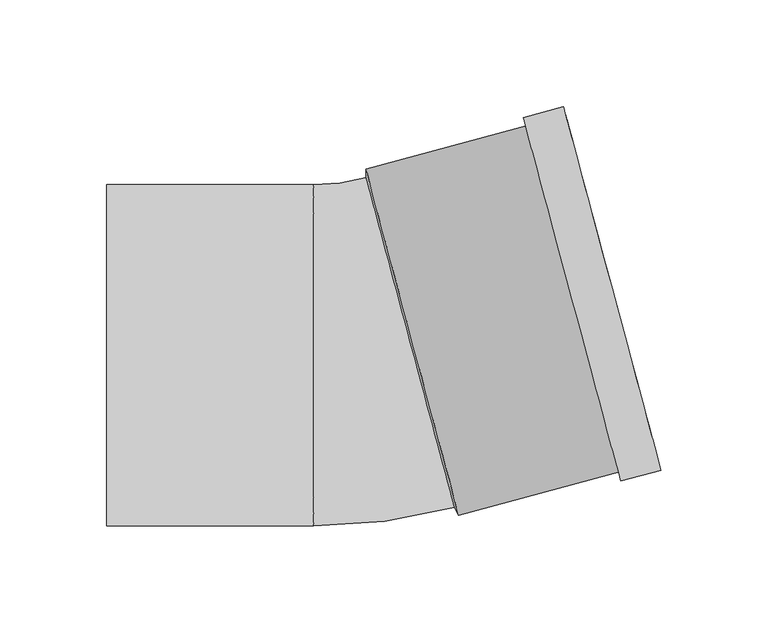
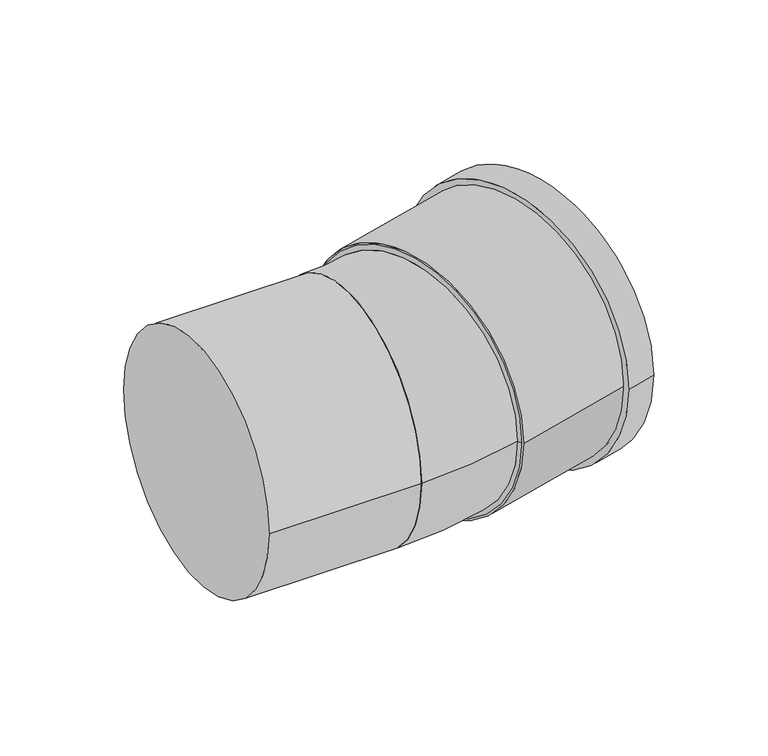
"""IFC4 building model written with IfcOpenShell, lengths in millimetres: pipe fitting geometry, Superdrain SKB Bend : Superdrain SKB Bend."""

from ifc_helpers import new_model, si_unit, point, frame, origin, origin_2d, place, context, project, spatial, polyline, circle_curve, ellipse_curve, trimmed, segment, composite_curve, outline, extrude, source, transform, mapped, element, save
from ifc_brep_helpers import plane_surface, revolved_surface, advanced_brep


def pipe_fitting_b6990175(model_context):
    return source(origin(), model_context, "Body", "SolidModel", [
        advanced_brep(
        [(42.9218176, -71.3212281, 0.0), (1.5107704, 83.2269041, 0.0), (-23.0, -80.0, 0.0), (-23.0, 80.0, 0.0)],
        [
            (0, 1, circle_curve(frame((22.216294, 5.952838, 0.0), z_axis=(0.965925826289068, 0.258819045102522, 0.0), x_axis=(-0.258819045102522, 0.965925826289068, 0.0)), 80.0)),
            (1, 0, circle_curve(frame((22.216294, 5.952838, 0.0), z_axis=(0.965925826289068, 0.258819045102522, 0.0), x_axis=(-0.258819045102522, 0.965925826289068, 0.0)), 80.0)),
            (2, 3, circle_curve(frame((-23.0, 0.0, 0.0), z_axis=(-1.0, 0.0, 0.0), x_axis=(0.0, 1.0, 0.0)), 80.0)),
            (3, 2, circle_curve(frame((-23.0, 0.0, 0.0), z_axis=(-1.0, 0.0, 0.0), x_axis=(0.0, 1.0, 0.0)), 80.0)),
            (3, 1, circle_curve(frame((-23.0, 174.7023446, 0.0), z_axis=(0.0, 0.0, 1.0), x_axis=(1.0, 0.0, 0.0)), 94.7023446)),
            (0, 2, circle_curve(frame((-23.0, 174.7023446, 0.0), z_axis=(0.0, 0.0, -1.0), x_axis=(1.0, 0.0, 0.0)), 254.7023446)),
        ],
        [
            plane_surface(frame((22.216294, 5.952838, 0.0), z_axis=(0.965925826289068, 0.258819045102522, 0.0), x_axis=(0.0, 0.0, -1.0))),
            plane_surface(frame((-23.0, 0.0, 0.0), z_axis=(-1.0, 0.0, 0.0), x_axis=(0.0, 0.0, -1.0))),
            revolved_surface(trimmed(ellipse_curve(frame((151.7023446, 174.7023446, 0.0), z_axis=(0.0, -1.0, 0.0), x_axis=(-1.0, 0.0, 0.0)), 80.0, 80.0), [point((71.7023446, 174.7023446, 0.0))], [point((231.7023446, 174.7023446, 0.0))], True, "CARTESIAN"), (-23.0, 174.7023446, 0.0), (0.0, 0.0, 1.0)),
            revolved_surface(trimmed(ellipse_curve(frame((151.7023446, 174.7023446, 0.0), z_axis=(0.0, -1.0, 0.0), x_axis=(-1.0, 0.0, 0.0)), 80.0, 80.0), [point((231.7023446, 174.7023446, 0.0))], [point((71.7023446, 174.7023446, 0.0))], True, "CARTESIAN"), (-23.0, 174.7023446, 0.0), (0.0, 0.0, 1.0)),
        ],
        [
            (0, [[1, 2]]),
            (1, [[3, 4]]),
            (2, [[-4, 5, -1, 6]]),
            (3, [[-3, -6, -2, -5]]),
        ],
    ),
        extrude(outline(composite_curve([segment(trimmed(circle_curve(origin_2d(), 84.0), [point((0.0, 84.0))], [point((0.0, -84.0))], False, "CARTESIAN"), True, "CONTINUOUS"), segment(trimmed(circle_curve(origin_2d(), 84.0), [point((0.0, -84.0))], [point((0.0, 84.0))], False, "CARTESIAN"), True, "CONTINUOUS")], self_intersect=False), holes=[composite_curve([segment(trimmed(circle_curve(origin_2d(), 80.0), [point((0.0, 80.0))], [point((0.0, -80.0))], True, "CARTESIAN"), True, "CONTINUOUS"), segment(trimmed(circle_curve(origin_2d(), 80.0), [point((0.0, -80.0))], [point((0.0, 80.0))], True, "CARTESIAN"), True, "CONTINUOUS")], self_intersect=False)]), frame((23.1822198, 6.2116571, 0.0), z_axis=(0.9659258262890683, 0.2588190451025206, 0.0), x_axis=(0.0, 0.0, 1.0)), (0.0, 0.0, 1.0), 97.0),
        extrude(outline(composite_curve([segment(trimmed(circle_curve(origin_2d(), 88.2), [point((0.0, -88.2))], [point((0.0, 88.2))], False, "CARTESIAN"), True, "CONTINUOUS"), segment(trimmed(circle_curve(origin_2d(), 88.2), [point((0.0, 88.2))], [point((0.0, -88.2))], False, "CARTESIAN"), True, "CONTINUOUS")], self_intersect=False), holes=[composite_curve([segment(trimmed(circle_curve(origin_2d(), 80.0), [point((0.0, -80.0))], [point((0.0, 80.0))], True, "CARTESIAN"), True, "CONTINUOUS"), segment(trimmed(circle_curve(origin_2d(), 80.0), [point((0.0, 80.0))], [point((0.0, -80.0))], True, "CARTESIAN"), True, "CONTINUOUS")], self_intersect=False)]), frame((98.138064, 26.296015, 0.0), z_axis=(0.9659258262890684, 0.2588190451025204, 0.0), x_axis=(0.0, 0.0, 1.0)), (0.0, 0.0, 1.0), 19.4),
        advanced_brep(
        [(44.9230196, -74.9261123, 0.0), (1.44142, 87.3494265, 0.0), (42.9218176, -71.3212281, 0.0), (1.5107704, 83.2269041, 0.0)],
        [
            (0, 1, circle_curve(frame((23.1822198, 6.2116571, 0.0), z_axis=(0.9659258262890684, 0.2588190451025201, 0.0), x_axis=(0.25881904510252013, -0.9659258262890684, 0.0)), 84.0)),
            (1, 0, circle_curve(frame((23.1822198, 6.2116571, 0.0), z_axis=(0.9659258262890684, 0.2588190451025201, 0.0), x_axis=(-0.2588190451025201, 0.9659258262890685, 0.0)), 84.0)),
            (2, 3, circle_curve(frame((22.216294, 5.952838, 0.0), z_axis=(-0.9659258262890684, -0.2588190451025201, 0.0), x_axis=(-0.2588190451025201, 0.9659258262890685, 0.0)), 80.0)),
            (3, 2, circle_curve(frame((22.216294, 5.952838, 0.0), z_axis=(-0.9659258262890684, -0.2588190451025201, 0.0), x_axis=(0.25881904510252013, -0.9659258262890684, 0.0)), 80.0)),
            (3, 1),
            (0, 2),
        ],
        [
            plane_surface(frame((23.1822198, 6.2116571, 0.0), z_axis=(0.965925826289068, 0.25881904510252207, 0.0), x_axis=(0.0, 0.0, -1.0))),
            plane_surface(frame((22.216294, 5.952838, 0.0), z_axis=(-0.965925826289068, -0.25881904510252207, 0.0), x_axis=(0.0, 0.0, -1.0))),
            revolved_surface(polyline([(1.5107703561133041, 83.22690420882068, 0.0), (1.441419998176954, 87.34942660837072, 0.0)]), (2.8977775, 0.7764571, 0.0), (0.9659258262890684, 0.2588190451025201, 0.0)),
            revolved_surface(polyline([(42.92181757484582, -71.3212280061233, 0.0), (44.9230196, -74.9261123, 0.0)]), (2.8977775, 0.7764571, 0.0), (0.9659258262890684, 0.2588190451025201, 0.0)),
        ],
        [
            (0, [[1, 2]]),
            (1, [[3, 4]]),
            (2, [[-4, 5, -1, 6]]),
            (3, [[-3, -6, -2, -5]]),
        ],
    ),
        extrude(outline(composite_curve([segment(trimmed(circle_curve(origin_2d(), 80.0), [point((-80.0, 0.0))], [point((80.0, 0.0))], False, "CARTESIAN"), True, "CONTINUOUS"), segment(trimmed(circle_curve(origin_2d(), 80.0), [point((80.0, 0.0))], [point((-80.0, 0.0))], False, "CARTESIAN"), True, "CONTINUOUS")], self_intersect=False)), frame((-120.0, 0.0, 0.0), z_axis=(1.0, 0.0, 0.0), x_axis=(0.0, 1.0, 0.0)), (0.0, 0.0, 1.0), 97.0),
    ])


if __name__ == "__main__":
    model = new_model("IFC4")
    model_context = context("Model", 3, world=origin())
    ifc_project = project(units=[si_unit("LENGTHUNIT", "METRE", prefix="MILLI")], contexts=[model_context])
    site = spatial("IfcSite", under=ifc_project)
    building = spatial("IfcBuilding", under=site)
    placement = place(None, origin())
    pipe_fitting_shape = pipe_fitting_b6990175(model_context)
    element("IfcPipeFitting", 1, ObjectType="Superdrain SKB Bend : Superdrain SKB Bend", at=placement, inside=building, context=model_context, shape_type="MappedRepresentation", body=[
        mapped(pipe_fitting_shape, transform((0.0, 0.0, 0.0), x_axis=(1.0, 0.0, 0.0), y_axis=(0.0, 1.0, 0.0), z_axis=(0.0, 0.0, 1.0))),
    ])
    save(model, "model.ifc")
